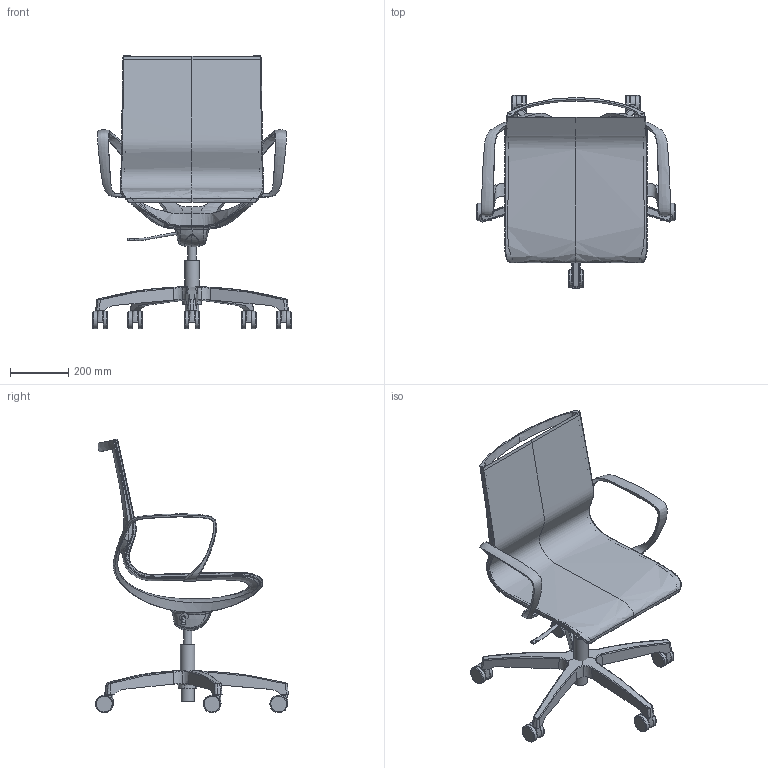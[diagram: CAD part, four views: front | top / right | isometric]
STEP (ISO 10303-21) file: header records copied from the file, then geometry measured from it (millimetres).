
FILE_DESCRIPTION(/* description */ (''),/* implementation_level */ '2;1');
FILE_NAME(/* name */ 'ZARO-G ZG 1352',/* time_stamp */ '2019-03-20T21:20:07+01:00',/* author */ (''),/* organization */ (''),/* preprocessor_version */ 'ST-DEVELOPER v16.5',/* originating_system */ '',/* authorisation */ '');
FILE_SCHEMA (('AUTOMOTIVE_DESIGN'));
Length unit declared in the file: millimetre
Products named in the file (1): Document
Bounding box: 677.7 x 660.39 x 935.93 mm (x, y, z)
Volume: 2341189.3 mm3; surface area: 1517820.5 mm2
Topology: 1 solids, 27 shells, 370 faces, 929 edges, 574 vertices
Faces by surface type: bspline 300, plane 70
Entity records: 64139 total; most frequent: CARTESIAN_POINT 58693, ORIENTED_EDGE 1711, EDGE_CURVE 906, VERTEX_POINT 568, B_SPLINE_CURVE_WITH_KNOTS 515, EDGE_LOOP 384, ADVANCED_FACE 370, FACE_OUTER_BOUND 370
